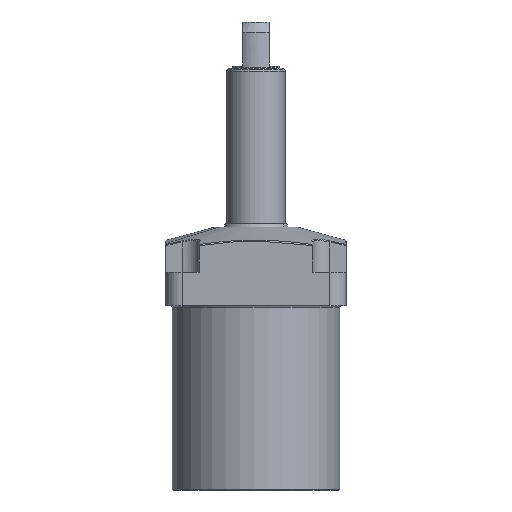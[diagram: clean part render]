
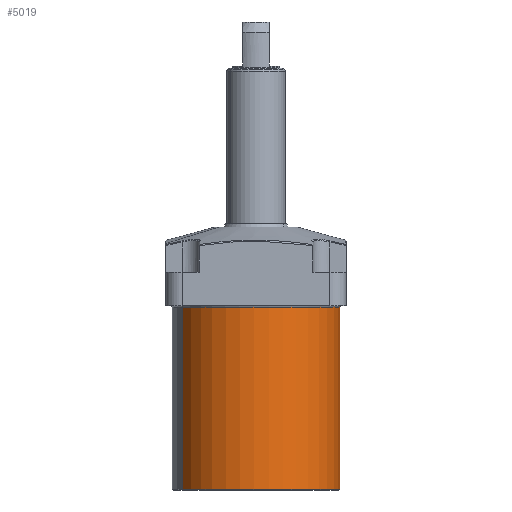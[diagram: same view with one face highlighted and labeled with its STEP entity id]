
A CAD part, left-side view. The second image highlights one B-rep face of the part: STEP entity #5019.
In plain terms, the highlighted cylindrical face has radius 50 mm (diameter 100 mm), a partial arc.
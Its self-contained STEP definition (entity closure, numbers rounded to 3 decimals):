
#4950=CARTESIAN_POINT('Vertex',(-23.971,43.879,109.2)) ;
#4953=CARTESIAN_POINT('Axis2P3D Location',(0.,0.,109.2)) ;
#4957=CARTESIAN_POINT('Vertex',(23.971,-43.879,109.2)) ;
#4989=CARTESIAN_POINT('Axis2P3D Location',(0.,0.,78.5)) ;
#4994=CARTESIAN_POINT('Line Origine',(-23.971,43.879,55.)) ;
#4998=CARTESIAN_POINT('Vertex',(-23.971,43.879,0.5)) ;
#5001=CARTESIAN_POINT('Axis2P3D Location',(0.,0.,0.5)) ;
#5005=CARTESIAN_POINT('Vertex',(23.971,-43.879,0.5)) ;
#5008=CARTESIAN_POINT('Line Origine',(23.971,-43.879,55.)) ;
#4954=DIRECTION('Axis2P3D Direction',(0.,0.,1.)) ;
#4990=DIRECTION('Axis2P3D Direction',(0.,0.,1.)) ;
#4991=DIRECTION('Axis2P3D XDirection',(-0.479,0.878,0.)) ;
#4995=DIRECTION('Vector Direction',(0.,0.,1.)) ;
#5002=DIRECTION('Axis2P3D Direction',(0.,0.,1.)) ;
#5009=DIRECTION('Vector Direction',(0.,0.,1.)) ;
#4955=AXIS2_PLACEMENT_3D('Circle Axis2P3D',#4953,#4954,$) ;
#4992=AXIS2_PLACEMENT_3D('Cylinder Axis2P3D',#4989,#4990,#4991) ;
#5003=AXIS2_PLACEMENT_3D('Circle Axis2P3D',#5001,#5002,$) ;
#5014=ORIENTED_EDGE('',*,*,#5000,.F.) ;
#5015=ORIENTED_EDGE('',*,*,#5007,.T.) ;
#5016=ORIENTED_EDGE('',*,*,#5012,.T.) ;
#5017=ORIENTED_EDGE('',*,*,#4959,.T.) ;
#4996=VECTOR('Line Direction',#4995,1.) ;
#5010=VECTOR('Line Direction',#5009,1.) ;
#5019=ADVANCED_FACE('',(#5018),#4993,.T.) ;
#4956=CIRCLE('generated circle',#4955,50.) ;
#5004=CIRCLE('generated circle',#5003,50.) ;
#4993=CYLINDRICAL_SURFACE('generated cylinder',#4992,50.) ;
#4959=EDGE_CURVE('',#4958,#4951,#4956,.F.) ;
#5000=EDGE_CURVE('',#4999,#4951,#4997,.T.) ;
#5007=EDGE_CURVE('',#4999,#5006,#5004,.T.) ;
#5012=EDGE_CURVE('',#5006,#4958,#5011,.T.) ;
#5013=EDGE_LOOP('',(#5014,#5015,#5016,#5017)) ;
#5018=FACE_OUTER_BOUND('',#5013,.T.) ;
#4997=LINE('Line',#4994,#4996) ;
#5011=LINE('Line',#5008,#5010) ;
#4951=VERTEX_POINT('',#4950) ;
#4958=VERTEX_POINT('',#4957) ;
#4999=VERTEX_POINT('',#4998) ;
#5006=VERTEX_POINT('',#5005) ;
